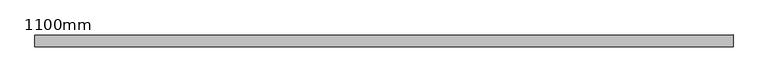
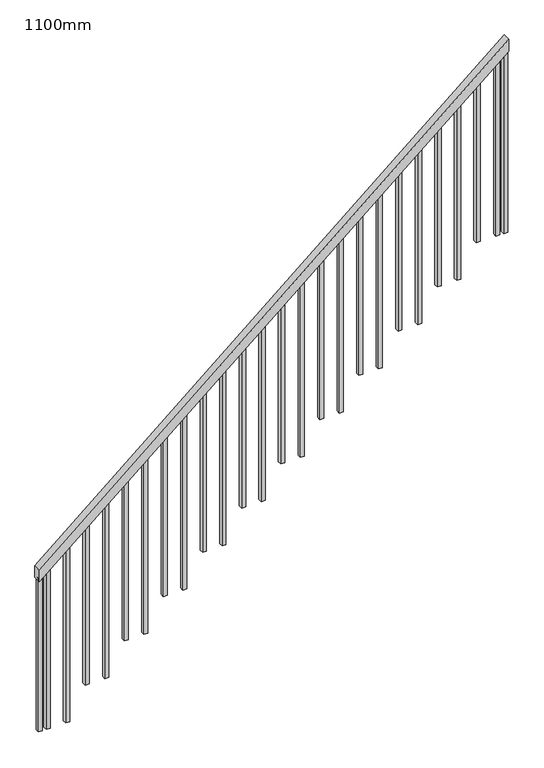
"""IFC4 building model written with IfcOpenShell, lengths in millimetres: railing geometry, 1100mm."""

from ifc_helpers import new_model, si_unit, frame, origin, place, context, project, spatial, polyline, outline, extrude, source, transform, mapped, element, save


def railing_1100mm_d219c64c(model_context):
    return source(origin(), model_context, "Body", "SweptSolid", [
        extrude(outline(polyline([(1461.5384615, -5434.8860857), (1382.9412937, -5434.8860857), (3921.4028322, -2434.8860857), (4000.0, -2434.8860857), (1461.5384615, -5434.8860857)])), frame((0.0, -3652.4572404, 0.0), z_axis=(0.0, 1.0, 0.0), x_axis=(0.0, 0.0, 1.0)), (0.0, 0.0, 1.0), 50.0),
        extrude(outline(polyline([(3876.5384615, -2509.8860857), (2688.4615385, -2509.8860857), (2688.4615385, -2484.8860857), (3897.6923077, -2484.8860857), (3876.5384615, -2509.8860857)])), frame((0.0, -3639.9572404, 0.0), z_axis=(0.0, 1.0, 0.0), x_axis=(0.0, 0.0, 1.0)), (0.0, 0.0, 1.0), 25.0),
        extrude(outline(polyline([(3770.7692308, -2634.8860857), (2688.4615385, -2634.8860857), (2688.4615385, -2609.8860857), (3791.9230769, -2609.8860857), (3770.7692308, -2634.8860857)])), frame((0.0, -3639.9572404, 0.0), z_axis=(0.0, 1.0, 0.0), x_axis=(0.0, 0.0, 1.0)), (0.0, 0.0, 1.0), 25.0),
        extrude(outline(polyline([(3665.0, -2759.8860857), (2476.9230769, -2759.8860857), (2476.9230769, -2734.8860857), (3686.1538462, -2734.8860857), (3665.0, -2759.8860857)])), frame((0.0, -3639.9572404, 0.0), z_axis=(0.0, 1.0, 0.0), x_axis=(0.0, 0.0, 1.0)), (0.0, 0.0, 1.0), 25.0),
        extrude(outline(polyline([(3559.2307692, -2884.8860857), (2476.9230769, -2884.8860857), (2476.9230769, -2859.8860857), (3580.3846154, -2859.8860857), (3559.2307692, -2884.8860857)])), frame((0.0, -3639.9572404, 0.0), z_axis=(0.0, 1.0, 0.0), x_axis=(0.0, 0.0, 1.0)), (0.0, 0.0, 1.0), 25.0),
        extrude(outline(polyline([(3453.4615385, -3009.8860857), (2265.3846154, -3009.8860857), (2265.3846154, -2984.8860857), (3474.6153846, -2984.8860857), (3453.4615385, -3009.8860857)])), frame((0.0, -3639.9572404, 0.0), z_axis=(0.0, 1.0, 0.0), x_axis=(0.0, 0.0, 1.0)), (0.0, 0.0, 1.0), 25.0),
        extrude(outline(polyline([(3347.6923077, -3134.8860857), (2265.3846154, -3134.8860857), (2265.3846154, -3109.8860857), (3368.8461538, -3109.8860857), (3347.6923077, -3134.8860857)])), frame((0.0, -3639.9572404, 0.0), z_axis=(0.0, 1.0, 0.0), x_axis=(0.0, 0.0, 1.0)), (0.0, 0.0, 1.0), 25.0),
        extrude(outline(polyline([(3241.9230769, -3259.8860857), (2053.8461538, -3259.8860857), (2053.8461538, -3234.8860857), (3263.0769231, -3234.8860857), (3241.9230769, -3259.8860857)])), frame((0.0, -3639.9572404, 0.0), z_axis=(0.0, 1.0, 0.0), x_axis=(0.0, 0.0, 1.0)), (0.0, 0.0, 1.0), 25.0),
        extrude(outline(polyline([(3136.1538462, -3384.8860857), (2053.8461538, -3384.8860857), (2053.8461538, -3359.8860857), (3157.3076923, -3359.8860857), (3136.1538462, -3384.8860857)])), frame((0.0, -3639.9572404, 0.0), z_axis=(0.0, 1.0, 0.0), x_axis=(0.0, 0.0, 1.0)), (0.0, 0.0, 1.0), 25.0),
        extrude(outline(polyline([(3030.3846154, -3509.8860857), (1842.3076923, -3509.8860857), (1842.3076923, -3484.8860857), (3051.5384615, -3484.8860857), (3030.3846154, -3509.8860857)])), frame((0.0, -3639.9572404, 0.0), z_axis=(0.0, 1.0, 0.0), x_axis=(0.0, 0.0, 1.0)), (0.0, 0.0, 1.0), 25.0),
        extrude(outline(polyline([(2924.6153846, -3634.8860857), (1842.3076923, -3634.8860857), (1842.3076923, -3609.8860857), (2945.7692308, -3609.8860857), (2924.6153846, -3634.8860857)])), frame((0.0, -3639.9572404, 0.0), z_axis=(0.0, 1.0, 0.0), x_axis=(0.0, 0.0, 1.0)), (0.0, 0.0, 1.0), 25.0),
        extrude(outline(polyline([(2818.8461538, -3759.8860857), (1630.7692308, -3759.8860857), (1630.7692308, -3734.8860857), (2840.0, -3734.8860857), (2818.8461538, -3759.8860857)])), frame((0.0, -3639.9572404, 0.0), z_axis=(0.0, 1.0, 0.0), x_axis=(0.0, 0.0, 1.0)), (0.0, 0.0, 1.0), 25.0),
        extrude(outline(polyline([(2713.0769231, -3884.8860857), (1630.7692308, -3884.8860857), (1630.7692308, -3859.8860857), (2734.2307692, -3859.8860857), (2713.0769231, -3884.8860857)])), frame((0.0, -3639.9572404, 0.0), z_axis=(0.0, 1.0, 0.0), x_axis=(0.0, 0.0, 1.0)), (0.0, 0.0, 1.0), 25.0),
        extrude(outline(polyline([(2607.3076923, -4009.8860857), (1419.2307692, -4009.8860857), (1419.2307692, -3984.8860857), (2628.4615385, -3984.8860857), (2607.3076923, -4009.8860857)])), frame((0.0, -3639.9572404, 0.0), z_axis=(0.0, 1.0, 0.0), x_axis=(0.0, 0.0, 1.0)), (0.0, 0.0, 1.0), 25.0),
        extrude(outline(polyline([(2501.5384615, -4134.8860857), (1419.2307692, -4134.8860857), (1419.2307692, -4109.8860857), (2522.6923077, -4109.8860857), (2501.5384615, -4134.8860857)])), frame((0.0, -3639.9572404, 0.0), z_axis=(0.0, 1.0, 0.0), x_axis=(0.0, 0.0, 1.0)), (0.0, 0.0, 1.0), 25.0),
        extrude(outline(polyline([(2395.7692308, -4259.8860857), (1207.6923077, -4259.8860857), (1207.6923077, -4234.8860857), (2416.9230769, -4234.8860857), (2395.7692308, -4259.8860857)])), frame((0.0, -3639.9572404, 0.0), z_axis=(0.0, 1.0, 0.0), x_axis=(0.0, 0.0, 1.0)), (0.0, 0.0, 1.0), 25.0),
        extrude(outline(polyline([(2290.0, -4384.8860857), (1207.6923077, -4384.8860857), (1207.6923077, -4359.8860857), (2311.1538462, -4359.8860857), (2290.0, -4384.8860857)])), frame((0.0, -3639.9572404, 0.0), z_axis=(0.0, 1.0, 0.0), x_axis=(0.0, 0.0, 1.0)), (0.0, 0.0, 1.0), 25.0),
        extrude(outline(polyline([(2184.2307692, -4509.8860857), (996.1538462, -4509.8860857), (996.1538462, -4484.8860857), (2205.3846154, -4484.8860857), (2184.2307692, -4509.8860857)])), frame((0.0, -3639.9572404, 0.0), z_axis=(0.0, 1.0, 0.0), x_axis=(0.0, 0.0, 1.0)), (0.0, 0.0, 1.0), 25.0),
        extrude(outline(polyline([(2078.4615385, -4634.8860857), (996.1538462, -4634.8860857), (996.1538462, -4609.8860857), (2099.6153846, -4609.8860857), (2078.4615385, -4634.8860857)])), frame((0.0, -3639.9572404, 0.0), z_axis=(0.0, 1.0, 0.0), x_axis=(0.0, 0.0, 1.0)), (0.0, 0.0, 1.0), 25.0),
        extrude(outline(polyline([(1972.6923077, -4759.8860857), (784.6153846, -4759.8860857), (784.6153846, -4734.8860857), (1993.8461538, -4734.8860857), (1972.6923077, -4759.8860857)])), frame((0.0, -3639.9572404, 0.0), z_axis=(0.0, 1.0, 0.0), x_axis=(0.0, 0.0, 1.0)), (0.0, 0.0, 1.0), 25.0),
        extrude(outline(polyline([(1866.9230769, -4884.8860857), (784.6153846, -4884.8860857), (784.6153846, -4859.8860857), (1888.0769231, -4859.8860857), (1866.9230769, -4884.8860857)])), frame((0.0, -3639.9572404, 0.0), z_axis=(0.0, 1.0, 0.0), x_axis=(0.0, 0.0, 1.0)), (0.0, 0.0, 1.0), 25.0),
        extrude(outline(polyline([(1761.1538462, -5009.8860857), (573.0769231, -5009.8860857), (573.0769231, -4984.8860857), (1782.3076923, -4984.8860857), (1761.1538462, -5009.8860857)])), frame((0.0, -3639.9572404, 0.0), z_axis=(0.0, 1.0, 0.0), x_axis=(0.0, 0.0, 1.0)), (0.0, 0.0, 1.0), 25.0),
        extrude(outline(polyline([(1655.3846154, -5134.8860857), (573.0769231, -5134.8860857), (573.0769231, -5109.8860857), (1676.5384615, -5109.8860857), (1655.3846154, -5134.8860857)])), frame((0.0, -3639.9572404, 0.0), z_axis=(0.0, 1.0, 0.0), x_axis=(0.0, 0.0, 1.0)), (0.0, 0.0, 1.0), 25.0),
        extrude(outline(polyline([(1549.6153846, -5259.8860857), (361.5384615, -5259.8860857), (361.5384615, -5234.8860857), (1570.7692308, -5234.8860857), (1549.6153846, -5259.8860857)])), frame((0.0, -3639.9572404, 0.0), z_axis=(0.0, 1.0, 0.0), x_axis=(0.0, 0.0, 1.0)), (0.0, 0.0, 1.0), 25.0),
        extrude(outline(polyline([(1443.8461538, -5384.8860857), (361.5384615, -5384.8860857), (361.5384615, -5359.8860857), (1465.0, -5359.8860857), (1443.8461538, -5384.8860857)])), frame((0.0, -3639.9572404, 0.0), z_axis=(0.0, 1.0, 0.0), x_axis=(0.0, 0.0, 1.0)), (0.0, 0.0, 1.0), 25.0),
        extrude(outline(polyline([(3918.8461538, -2459.8860857), (2688.4615385, -2459.8860857), (2688.4615385, -2434.8860857), (3940.0, -2434.8860857), (3918.8461538, -2459.8860857)])), frame((0.0, -3639.9572404, 0.0), z_axis=(0.0, 1.0, 0.0), x_axis=(0.0, 0.0, 1.0)), (0.0, 0.0, 1.0), 25.0),
        extrude(outline(polyline([(1401.5384615, -5434.8860857), (361.5384615, -5434.8860857), (361.5384615, -5409.8860857), (1422.6923077, -5409.8860857), (1401.5384615, -5434.8860857)])), frame((0.0, -3639.9572404, 0.0), z_axis=(0.0, 1.0, 0.0), x_axis=(0.0, 0.0, 1.0)), (0.0, 0.0, 1.0), 25.0),
    ])


if __name__ == "__main__":
    model = new_model("IFC4")
    model_context = context("Model", 3, world=origin())
    ifc_project = project(units=[si_unit("LENGTHUNIT", "METRE", prefix="MILLI")], contexts=[model_context])
    site = spatial("IfcSite", under=ifc_project)
    building = spatial("IfcBuilding", under=site)
    placement = place(None, origin())
    railing_1100mm_shape = railing_1100mm_d219c64c(model_context)
    element("IfcRailing", 1, ObjectType="1100mm", at=placement, inside=building, context=model_context, shape_type="MappedRepresentation", body=[
        mapped(railing_1100mm_shape, transform((0.0, 0.0, 0.0), x_axis=(1.0, 0.0, 0.0), y_axis=(0.0, 1.0, 0.0), z_axis=(0.0, 0.0, 1.0))),
    ])
    save(model, "model.ifc")
